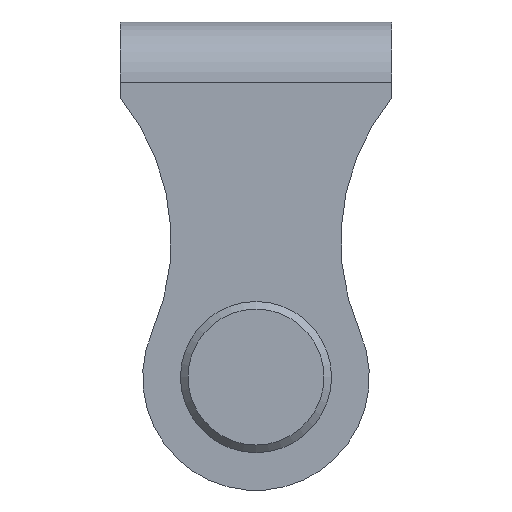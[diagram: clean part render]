
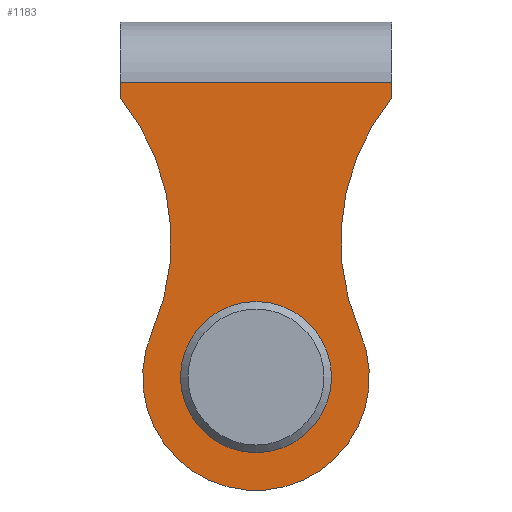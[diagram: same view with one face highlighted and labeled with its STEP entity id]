
A CAD part, left-side view. The second image highlights one B-rep face of the part: STEP entity #1183.
In plain terms, the highlighted planar face has unit normal (-1, 0, 0).
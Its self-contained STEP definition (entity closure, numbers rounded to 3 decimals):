
#51=FACE_BOUND('',#194,.T.);
#67=PLANE('',#1280);
#114=FACE_OUTER_BOUND('',#193,.T.);
#193=EDGE_LOOP('',(#883,#884,#885,#886,#887,#888));
#194=EDGE_LOOP('',(#889));
#254=LINE('',#1764,#355);
#259=LINE('',#1780,#360);
#278=LINE('',#1864,#379);
#355=VECTOR('',#1383,36.);
#360=VECTOR('',#1398,2.);
#379=VECTOR('',#1489,2.);
#480=CIRCLE('',#1278,8.);
#481=CIRCLE('',#1281,30.);
#482=CIRCLE('',#1282,15.);
#483=CIRCLE('',#1283,30.);
#520=VERTEX_POINT('',#1761);
#521=VERTEX_POINT('',#1763);
#527=VERTEX_POINT('',#1779);
#555=VERTEX_POINT('',#1859);
#556=VERTEX_POINT('',#1863);
#557=VERTEX_POINT('',#1865);
#558=VERTEX_POINT('',#1867);
#636=EDGE_CURVE('',#520,#521,#254,.T.);
#644=EDGE_CURVE('',#527,#521,#259,.T.);
#683=EDGE_CURVE('',#555,#555,#480,.T.);
#684=EDGE_CURVE('',#520,#556,#278,.T.);
#685=EDGE_CURVE('',#556,#557,#481,.T.);
#686=EDGE_CURVE('',#557,#558,#482,.T.);
#687=EDGE_CURVE('',#558,#527,#483,.T.);
#883=ORIENTED_EDGE('',*,*,#636,.F.);
#884=ORIENTED_EDGE('',*,*,#684,.T.);
#885=ORIENTED_EDGE('',*,*,#685,.T.);
#886=ORIENTED_EDGE('',*,*,#686,.T.);
#887=ORIENTED_EDGE('',*,*,#687,.T.);
#888=ORIENTED_EDGE('',*,*,#644,.T.);
#889=ORIENTED_EDGE('',*,*,#683,.T.);
#1183=ADVANCED_FACE('',(#114,#51),#67,.F.);
#1278=AXIS2_PLACEMENT_3D('',#1860,#1483,#1484);
#1280=AXIS2_PLACEMENT_3D('',#1862,#1487,#1488);
#1281=AXIS2_PLACEMENT_3D('',#1866,#1490,#1491);
#1282=AXIS2_PLACEMENT_3D('',#1868,#1492,#1493);
#1283=AXIS2_PLACEMENT_3D('',#1869,#1494,#1495);
#1383=DIRECTION('',(0.,-1.,0.));
#1398=DIRECTION('',(0.,0.,1.));
#1483=DIRECTION('center_axis',(1.,0.,0.));
#1484=DIRECTION('ref_axis',(0.,-1.,0.));
#1487=DIRECTION('center_axis',(1.,0.,0.));
#1488=DIRECTION('ref_axis',(0.,0.,-1.));
#1489=DIRECTION('',(0.,0.,-1.));
#1490=DIRECTION('center_axis',(1.,0.,0.));
#1491=DIRECTION('ref_axis',(0.,0.774,-0.633));
#1492=DIRECTION('center_axis',(-1.,0.,0.));
#1493=DIRECTION('ref_axis',(0.,-0.916,0.4));
#1494=DIRECTION('center_axis',(1.,0.,0.));
#1495=DIRECTION('ref_axis',(0.,-0.916,0.4));
#1761=CARTESIAN_POINT('',(-18.5,18.,39.));
#1763=CARTESIAN_POINT('',(-18.5,-18.,39.));
#1764=CARTESIAN_POINT('',(-18.5,9.,39.));
#1779=CARTESIAN_POINT('',(-18.5,-18.,37.));
#1780=CARTESIAN_POINT('',(-18.5,-18.,47.));
#1859=CARTESIAN_POINT('',(-18.5,8.,0.));
#1860=CARTESIAN_POINT('Origin',(-18.5,0.,0.));
#1862=CARTESIAN_POINT('Origin',(-18.5,0.,22.029));
#1863=CARTESIAN_POINT('',(-18.5,18.,37.));
#1864=CARTESIAN_POINT('',(-18.5,18.,37.));
#1865=CARTESIAN_POINT('',(-18.5,13.745,6.007));
#1866=CARTESIAN_POINT('Origin',(-18.5,41.234,18.021));
#1867=CARTESIAN_POINT('',(-18.5,-13.745,6.007));
#1868=CARTESIAN_POINT('Origin',(-18.5,0.,0.));
#1869=CARTESIAN_POINT('Origin',(-18.5,-41.234,18.021));
